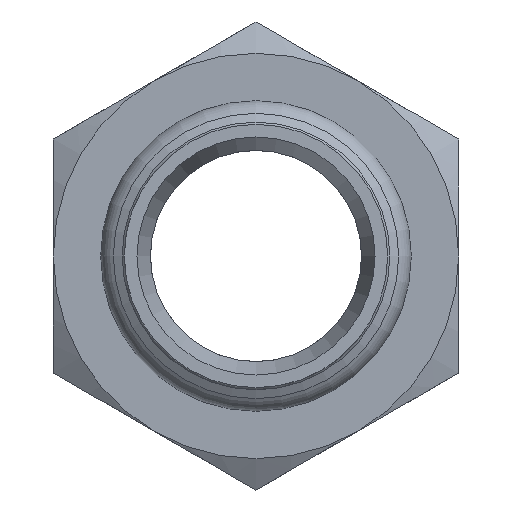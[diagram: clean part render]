
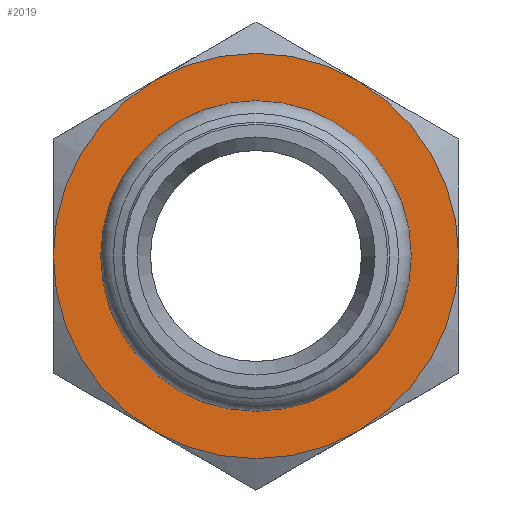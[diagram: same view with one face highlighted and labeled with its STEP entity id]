
A CAD part, left-side view. The second image highlights one B-rep face of the part: STEP entity #2019.
In plain terms, the highlighted planar face has unit normal (-1, 0, 0) as drawn and (0, 0, 1) by its records, which use the part's own axes.
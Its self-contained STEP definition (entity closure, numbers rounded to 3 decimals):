
#1385=CARTESIAN_POINT('',(16.0,0.,0.0));
#1386=VERTEX_POINT('',#1385);
#1387=CARTESIAN_POINT('',(0.0,0.0,0.0));
#1388=DIRECTION('',(0.0,0.0,-1.0));
#1389=DIRECTION('',(-1.0,0.0,0.0));
#1390=AXIS2_PLACEMENT_3D('',#1387,#1388,#1389);
#1391=CIRCLE('',#1390,16.0);
#1392=EDGE_CURVE('',#1386,#1386,#1391,.T.);
#1404=CARTESIAN_POINT('',(0.0,-24.,0.0));
#1405=VERTEX_POINT('',#1404);
#1419=CARTESIAN_POINT('',(20.785,-12.,0.0));
#1420=VERTEX_POINT('',#1419);
#1434=CARTESIAN_POINT('',(0.0,0.0,0.0));
#1435=DIRECTION('',(0.0,0.0,1.0));
#1436=DIRECTION('',(1.0,0.0,0.0));
#1437=AXIS2_PLACEMENT_3D('',#1434,#1435,#1436);
#1438=CIRCLE('',#1437,24.);
#1439=EDGE_CURVE('',#1405,#1420,#1438,.T.);
#1451=CARTESIAN_POINT('',(-20.785,-12.,0.0));
#1452=VERTEX_POINT('',#1451);
#1479=CARTESIAN_POINT('',(0.0,0.0,0.0));
#1480=DIRECTION('',(0.0,0.0,1.0));
#1481=DIRECTION('',(1.0,0.0,0.0));
#1482=AXIS2_PLACEMENT_3D('',#1479,#1480,#1481);
#1483=CIRCLE('',#1482,24.);
#1484=EDGE_CURVE('',#1452,#1405,#1483,.T.);
#1496=CARTESIAN_POINT('',(-20.785,12.,0.0));
#1497=VERTEX_POINT('',#1496);
#1524=CARTESIAN_POINT('',(0.0,0.0,0.0));
#1525=DIRECTION('',(0.0,0.0,1.0));
#1526=DIRECTION('',(1.0,0.0,0.0));
#1527=AXIS2_PLACEMENT_3D('',#1524,#1525,#1526);
#1528=CIRCLE('',#1527,24.);
#1529=EDGE_CURVE('',#1497,#1452,#1528,.T.);
#1554=CARTESIAN_POINT('',(0.,24.,0.0));
#1555=VERTEX_POINT('',#1554);
#1556=CARTESIAN_POINT('',(0.0,0.0,0.0));
#1557=DIRECTION('',(0.0,0.0,1.0));
#1558=DIRECTION('',(1.0,0.0,0.0));
#1559=AXIS2_PLACEMENT_3D('',#1556,#1557,#1558);
#1560=CIRCLE('',#1559,24.);
#1561=EDGE_CURVE('',#1555,#1497,#1560,.T.);
#1599=CARTESIAN_POINT('',(20.785,12.,0.0));
#1600=VERTEX_POINT('',#1599);
#1601=CARTESIAN_POINT('',(0.0,0.0,0.0));
#1602=DIRECTION('',(0.0,0.0,1.0));
#1603=DIRECTION('',(1.0,0.0,0.0));
#1604=AXIS2_PLACEMENT_3D('',#1601,#1602,#1603);
#1605=CIRCLE('',#1604,24.);
#1606=EDGE_CURVE('',#1600,#1555,#1605,.T.);
#1644=CARTESIAN_POINT('',(0.0,0.0,0.0));
#1645=DIRECTION('',(0.0,0.0,1.0));
#1646=DIRECTION('',(1.0,0.0,0.0));
#1647=AXIS2_PLACEMENT_3D('',#1644,#1645,#1646);
#1648=CIRCLE('',#1647,24.);
#1649=EDGE_CURVE('',#1420,#1600,#1648,.T.);
#2003=CARTESIAN_POINT('',(0.0,0.,0.0));
#2004=DIRECTION('',(0.0,0.0,1.0));
#2005=DIRECTION('',(1.0,0.0,0.0));
#2006=AXIS2_PLACEMENT_3D('',#2003,#2004,#2005);
#2007=PLANE('',#2006);
#2008=ORIENTED_EDGE('',*,*,#1649,.T.);
#2009=ORIENTED_EDGE('',*,*,#1606,.T.);
#2010=ORIENTED_EDGE('',*,*,#1561,.T.);
#2011=ORIENTED_EDGE('',*,*,#1529,.T.);
#2012=ORIENTED_EDGE('',*,*,#1484,.T.);
#2013=ORIENTED_EDGE('',*,*,#1439,.T.);
#2014=EDGE_LOOP('',(#2008,#2009,#2010,#2011,#2012,#2013));
#2015=FACE_OUTER_BOUND('',#2014,.T.);
#2016=ORIENTED_EDGE('',*,*,#1392,.T.);
#2017=EDGE_LOOP('',(#2016));
#2018=FACE_BOUND('',#2017,.T.);
#2019=ADVANCED_FACE('',(#2015,#2018),#2007,.T.);
